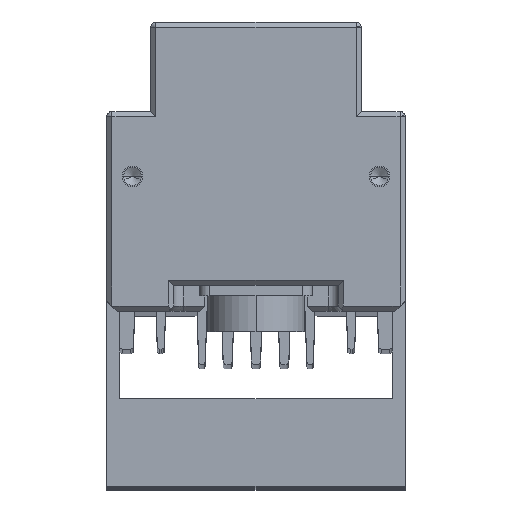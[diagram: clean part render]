
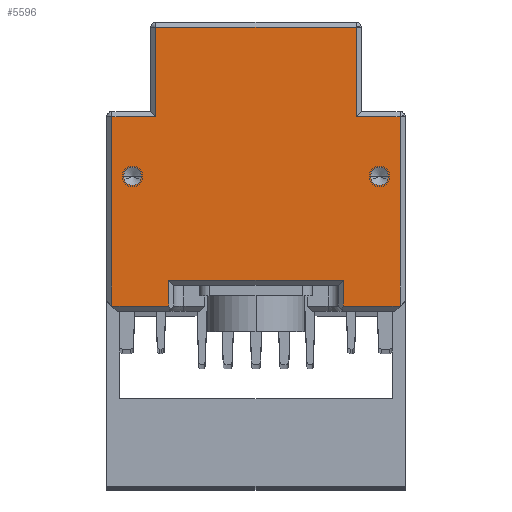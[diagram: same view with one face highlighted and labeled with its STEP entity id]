
A CAD part, top view. The second image highlights one B-rep face of the part: STEP entity #5596.
In plain terms, the highlighted planar face has unit normal (0, 0, 1).
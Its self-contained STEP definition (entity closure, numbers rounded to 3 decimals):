
#757=CARTESIAN_POINT('',(-24.,15.794,285.));
#758=DIRECTION('',(0.,0.,1.));
#759=DIRECTION('',(-1.,0.,0.));
#760=AXIS2_PLACEMENT_3D('',#757,#758,#759);
#762=CARTESIAN_POINT('',(-24.,15.794,285.));
#763=DIRECTION('',(0.,0.,1.));
#764=DIRECTION('',(1.,0.,0.));
#765=AXIS2_PLACEMENT_3D('',#762,#763,#764);
#767=CARTESIAN_POINT('',(24.,15.794,285.));
#768=DIRECTION('',(0.,0.,1.));
#769=DIRECTION('',(-1.,0.,0.));
#770=AXIS2_PLACEMENT_3D('',#767,#768,#769);
#772=CARTESIAN_POINT('',(24.,15.794,285.));
#773=DIRECTION('',(0.,0.,1.));
#774=DIRECTION('',(1.,0.,0.));
#775=AXIS2_PLACEMENT_3D('',#772,#773,#774);
#777=DIRECTION('',(1.,0.,0.));
#778=VECTOR('',#777,11.);
#779=CARTESIAN_POINT('',(-28.,-9.406,285.));
#780=LINE('',#779,#778);
#781=DIRECTION('',(0.,-1.,0.));
#782=VECTOR('',#781,36.8);
#783=CARTESIAN_POINT('',(-28.,27.394,285.));
#784=LINE('',#783,#782);
#785=DIRECTION('',(-1.,0.,0.));
#786=VECTOR('',#785,8.55);
#787=CARTESIAN_POINT('',(-19.45,27.394,285.));
#788=LINE('',#787,#786);
#789=DIRECTION('',(0.,-1.,0.));
#790=VECTOR('',#789,17.4);
#791=CARTESIAN_POINT('',(-19.45,44.794,285.));
#792=LINE('',#791,#790);
#793=DIRECTION('',(-1.,0.,0.));
#794=VECTOR('',#793,38.899);
#795=CARTESIAN_POINT('',(19.45,44.794,285.));
#796=LINE('',#795,#794);
#797=DIRECTION('',(0.,1.,0.));
#798=VECTOR('',#797,17.4);
#799=CARTESIAN_POINT('',(19.45,27.394,285.));
#800=LINE('',#799,#798);
#801=DIRECTION('',(-1.,0.,0.));
#802=VECTOR('',#801,8.55);
#803=CARTESIAN_POINT('',(28.,27.394,285.));
#804=LINE('',#803,#802);
#805=DIRECTION('',(0.,1.,0.));
#806=VECTOR('',#805,36.8);
#807=CARTESIAN_POINT('',(28.,-9.406,285.));
#808=LINE('',#807,#806);
#809=DIRECTION('',(1.,0.,0.));
#810=VECTOR('',#809,11.);
#811=CARTESIAN_POINT('',(17.,-9.406,285.));
#812=LINE('',#811,#810);
#813=DIRECTION('',(0.,-1.,0.));
#814=VECTOR('',#813,5.);
#815=CARTESIAN_POINT('',(17.,-4.406,285.));
#816=LINE('',#815,#814);
#817=DIRECTION('',(-1.,0.,0.));
#818=VECTOR('',#817,34.);
#819=CARTESIAN_POINT('',(17.,-4.406,285.));
#820=LINE('',#819,#818);
#821=DIRECTION('',(0.,1.,0.));
#822=VECTOR('',#821,5.);
#823=CARTESIAN_POINT('',(-17.,-9.406,285.));
#824=LINE('',#823,#822);
#4289=CARTESIAN_POINT('',(-28.,-9.406,285.));
#4290=CARTESIAN_POINT('',(-17.,-9.406,285.));
#4291=VERTEX_POINT('',#4289);
#4292=VERTEX_POINT('',#4290);
#4301=CARTESIAN_POINT('',(-28.,27.394,285.));
#4302=VERTEX_POINT('',#4301);
#4305=CARTESIAN_POINT('',(-19.45,27.394,285.));
#4306=VERTEX_POINT('',#4305);
#4309=CARTESIAN_POINT('',(19.45,27.394,285.));
#4310=CARTESIAN_POINT('',(19.45,44.794,285.));
#4311=VERTEX_POINT('',#4309);
#4312=VERTEX_POINT('',#4310);
#4319=CARTESIAN_POINT('',(-19.45,44.794,285.));
#4320=VERTEX_POINT('',#4319);
#4325=CARTESIAN_POINT('',(28.,-9.406,285.));
#4326=CARTESIAN_POINT('',(28.,27.394,285.));
#4327=VERTEX_POINT('',#4325);
#4328=VERTEX_POINT('',#4326);
#4339=CARTESIAN_POINT('',(17.,-9.406,285.));
#4340=VERTEX_POINT('',#4339);
#4361=CARTESIAN_POINT('',(17.,-4.406,285.));
#4362=VERTEX_POINT('',#4361);
#4363=CARTESIAN_POINT('',(-17.,-4.406,285.));
#4364=VERTEX_POINT('',#4363);
#4395=CARTESIAN_POINT('',(-25.75,15.794,285.));
#4396=CARTESIAN_POINT('',(-22.25,15.794,285.));
#4397=VERTEX_POINT('',#4395);
#4398=VERTEX_POINT('',#4396);
#4405=CARTESIAN_POINT('',(22.25,15.794,285.));
#4406=CARTESIAN_POINT('',(25.75,15.794,285.));
#4407=VERTEX_POINT('',#4405);
#4408=VERTEX_POINT('',#4406);
#5554=CARTESIAN_POINT('',(0.,0.,285.));
#5555=DIRECTION('',(0.,0.,1.));
#5556=DIRECTION('',(1.,0.,0.));
#5557=AXIS2_PLACEMENT_3D('',#5554,#5555,#5556);
#5558=PLANE('',#5557);
#5560=ORIENTED_EDGE('',*,*,#5559,.F.);
#5562=ORIENTED_EDGE('',*,*,#5561,.F.);
#5564=ORIENTED_EDGE('',*,*,#5563,.F.);
#5566=ORIENTED_EDGE('',*,*,#5565,.F.);
#5568=ORIENTED_EDGE('',*,*,#5567,.F.);
#5570=ORIENTED_EDGE('',*,*,#5569,.F.);
#5572=ORIENTED_EDGE('',*,*,#5571,.F.);
#5574=ORIENTED_EDGE('',*,*,#5573,.F.);
#5576=ORIENTED_EDGE('',*,*,#5575,.F.);
#5578=ORIENTED_EDGE('',*,*,#5577,.F.);
#5580=ORIENTED_EDGE('',*,*,#5579,.T.);
#5581=ORIENTED_EDGE('',*,*,#5543,.F.);
#5582=EDGE_LOOP('',(#5560,#5562,#5564,#5566,#5568,#5570,#5572,#5574,#5576,#5578,
#5580,#5581));
#5583=FACE_OUTER_BOUND('',#5582,.F.);
#5585=ORIENTED_EDGE('',*,*,#5584,.T.);
#5587=ORIENTED_EDGE('',*,*,#5586,.T.);
#5588=EDGE_LOOP('',(#5585,#5587));
#5589=FACE_BOUND('',#5588,.F.);
#5591=ORIENTED_EDGE('',*,*,#5590,.T.);
#5593=ORIENTED_EDGE('',*,*,#5592,.T.);
#5594=EDGE_LOOP('',(#5591,#5593));
#5595=FACE_BOUND('',#5594,.F.);
#761=CIRCLE('',#760,1.75);
#766=CIRCLE('',#765,1.75);
#771=CIRCLE('',#770,1.75);
#776=CIRCLE('',#775,1.75);
#5543=EDGE_CURVE('',#4292,#4364,#824,.T.);
#5559=EDGE_CURVE('',#4291,#4292,#780,.T.);
#5561=EDGE_CURVE('',#4302,#4291,#784,.T.);
#5563=EDGE_CURVE('',#4306,#4302,#788,.T.);
#5565=EDGE_CURVE('',#4320,#4306,#792,.T.);
#5567=EDGE_CURVE('',#4312,#4320,#796,.T.);
#5569=EDGE_CURVE('',#4311,#4312,#800,.T.);
#5571=EDGE_CURVE('',#4328,#4311,#804,.T.);
#5573=EDGE_CURVE('',#4327,#4328,#808,.T.);
#5575=EDGE_CURVE('',#4340,#4327,#812,.T.);
#5577=EDGE_CURVE('',#4362,#4340,#816,.T.);
#5579=EDGE_CURVE('',#4362,#4364,#820,.T.);
#5584=EDGE_CURVE('',#4407,#4408,#771,.T.);
#5586=EDGE_CURVE('',#4408,#4407,#776,.T.);
#5590=EDGE_CURVE('',#4397,#4398,#761,.T.);
#5592=EDGE_CURVE('',#4398,#4397,#766,.T.);
#5596=ADVANCED_FACE('',(#5583,#5589,#5595),#5558,.T.);
